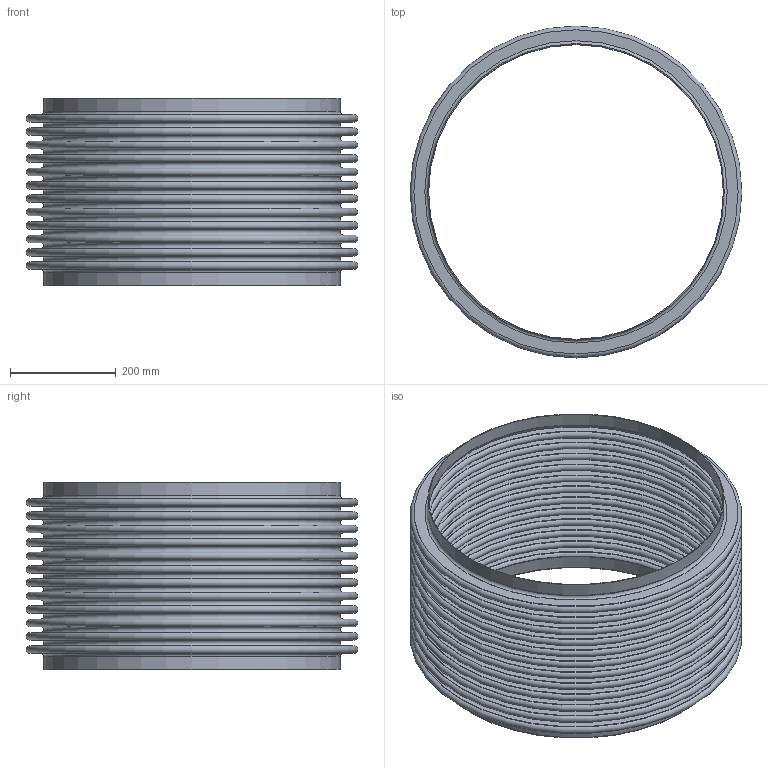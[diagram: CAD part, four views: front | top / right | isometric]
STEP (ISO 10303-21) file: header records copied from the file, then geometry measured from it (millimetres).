
FILE_DESCRIPTION(/* description */ ('STOCK BELLOWS: U.S-22-12-150L, 22.000 I.D., 24.750 O.D., 1 PLY, 16 GA (0.060 THICK), 12 CONS., 1.000 PITCH, 1.000 TANGENT. '),/* implementation_level */ '2;1');
FILE_NAME(/* name */ 'STOCK BELLOW - US-22-12-150L.stp',/* time_stamp */ '2026-07-21T13:06:55-05:00',/* author */ ('KennethB'),/* organization */ (''),/* preprocessor_version */ 'ST-DEVELOPER v20.1',/* originating_system */ 'Autodesk Inventor 2026',/* authorisation */ '');
FILE_SCHEMA (('AUTOMOTIVE_DESIGN { 1 0 10303 214 3 1 1 }'));
Length unit declared in the file: inch
Products named in the file (1): STOCK BELLOW - US-22-12-150L
Bounding box: 628.65 x 628.65 x 355.6 mm (x, y, z)
Volume: 2909558.3 mm3; surface area: 3834414.3 mm2
Topology: 3 solids, 3 shells, 108 faces, 162 edges, 109 vertices
Faces by surface type: plane 54, torus 50, cylinder 4
Full cylindrical faces by diameter (mm): 558.8 x2, 561.848 x2
Entity records: 2550 total; most frequent: DIRECTION 538, CARTESIAN_POINT 380, ORIENTED_EDGE 324, AXIS2_PLACEMENT_3D 267, EDGE_LOOP 162, EDGE_CURVE 162, CIRCLE 158, FACE_OUTER_BOUND 108
